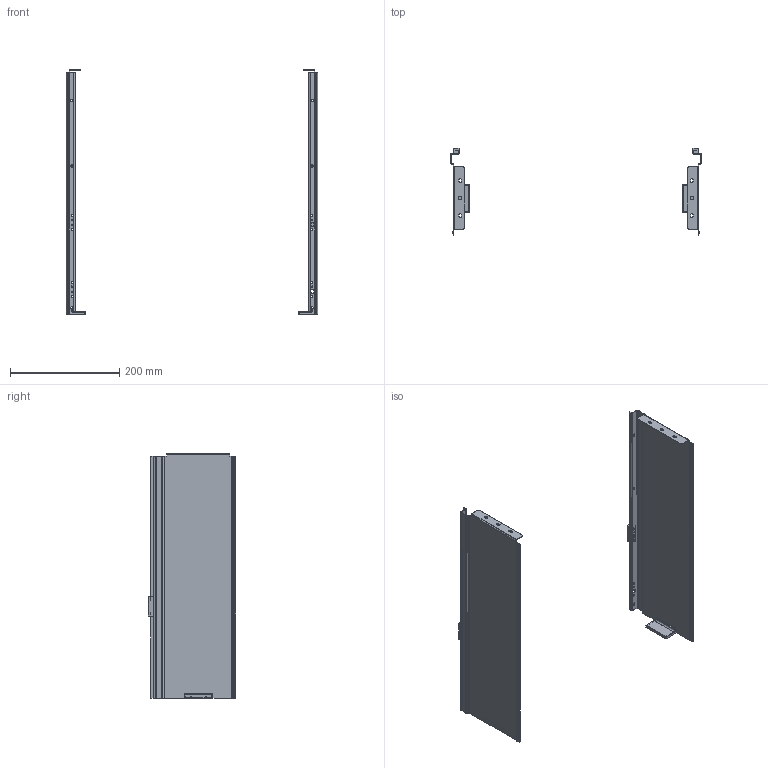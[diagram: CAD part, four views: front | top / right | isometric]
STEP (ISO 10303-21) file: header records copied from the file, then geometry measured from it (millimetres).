
FILE_DESCRIPTION(/* description */ (''),/* implementation_level */ '2;1');
FILE_NAME(/* name */ 'C:\Users\dmitruk\Documents\WORK\\X2\041D0410041F042004100412041B042F042E042904180415\X0\\ULTRA SLIM\\X2\0411043E043A043E04320438043D043A0438\X0\ Q-Type\Боковинки Q-Type-450 высокий.stp',/* time_stamp */ '2022-07-28T10:09:08+03:00',/* author */ ('dmitruk'),/* organization */ (''),/* preprocessor_version */ 'ST-DEVELOPER v16.5',/* originating_system */ 'Autodesk Inventor 2017',/* authorisation */ '');
FILE_SCHEMA (('AUTOMOTIVE_DESIGN { 1 0 10303 214 3 1 1 }'));
Length unit declared in the file: millimetre
Products named in the file (3): Боковинки Q-Type; Боковина USLIM; Боковина USLIM L
Assembly tree (2 placements, depth 2):
  Боковинки Q-Type
    Боковина USLIM
    Боковина USLIM L
Bounding box: 459.6 x 160.4 x 448 mm (x, y, z)
Volume: 237790.6 mm3; surface area: 339973.8 mm2
Topology: 8 solids, 8 shells, 480 faces, 1328 edges, 868 vertices
Faces by surface type: plane 210, cylinder 198, torus 36, bspline 28, sphere 8
Full cylindrical faces by diameter (mm): 2 x6, 4.2 x18, 6 x2, 7 x2, 8 x4
Entity records: 16210 total; most frequent: CARTESIAN_POINT 3164, DIRECTION 2702, ORIENTED_EDGE 2548, EDGE_CURVE 1274, AXIS2_PLACEMENT_3D 979, VERTEX_POINT 846, LINE 744, VECTOR 744
